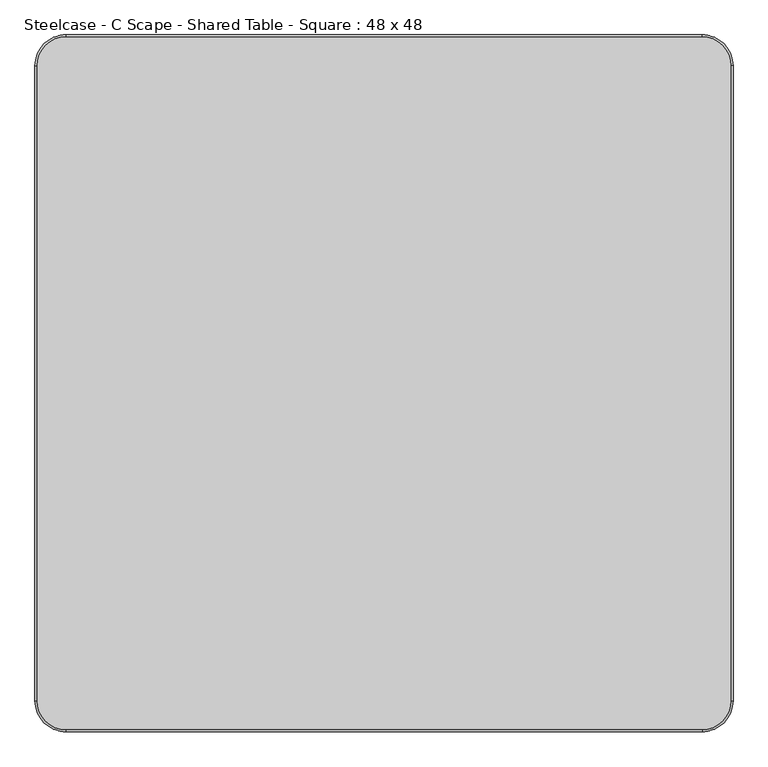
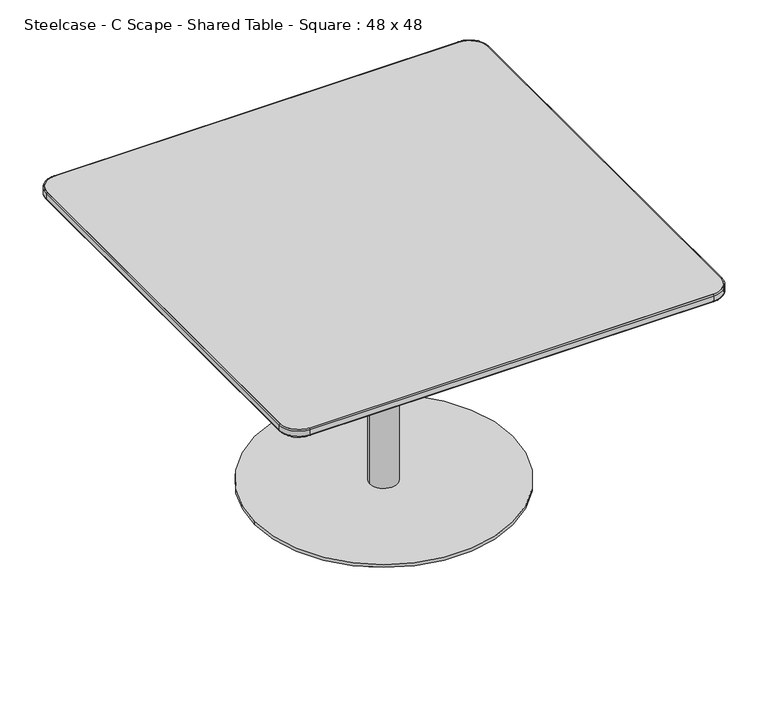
"""IFC4 building model written with IfcOpenShell, lengths in millimetres: furniture geometry, Steelcase - C Scape - Shared Table - Square : 48 x 48."""

import ifcopenshell
import ifcopenshell.guid

model = None  # the IFC model being written
_history = None  # IfcOwnerHistory: only IFC2X3 demands one
_inside = {}  # id of a spatial element -> (the spatial element, [elements in it])
_under = {}  # id of a project, library or spatial element -> (it, [spatial elements below it])
_declared = {}  # id of a project -> (the project, [libraries it declares])
_typed = {}  # id of a type object -> (the type object, [elements of that type])
_made_of = {}  # id of a material, layer set ... -> (it, [elements and type objects made of it])


def new_model(schema):
    """Start an empty IFC model of exactly this schema.

    Asked for "IFC4X3", IfcOpenShell would pick the latest addendum, in which some entities
    have other attributes; the version numbers below select the first issue.
    IFC2X3 requires an IfcOwnerHistory on every rooted entity: one is made here for all.
    """
    global model, _history
    if schema == "IFC4X3":
        model = ifcopenshell.file(schema_version=(4, 3, 0, 0))
    else:
        model = ifcopenshell.file(schema=schema)
    _inside.clear()
    _under.clear()
    _declared.clear()
    _typed.clear()
    _made_of.clear()
    _history = None
    if model.schema == "IFC2X3":
        org = make("IfcOrganization", Name="unknown")
        user = make(
            "IfcPersonAndOrganization",
            ThePerson=make("IfcPerson", FamilyName="unknown"),
            TheOrganization=org,
        )
        app = make(
            "IfcApplication",
            ApplicationDeveloper=org,
            Version="unknown",
            ApplicationFullName="unknown",
            ApplicationIdentifier="unknown",
        )
        _history = make(
            "IfcOwnerHistory",
            OwningUser=user,
            OwningApplication=app,
            ChangeAction="ADDED",
            CreationDate=0,
        )
    return model


def make(cls, **values):
    """One entity of the class cls with the attributes given. An attribute that is None is left unset."""
    return model.create_entity(
        cls, **{name: value for name, value in values.items() if value is not None}
    )


def rooted(cls, **values):
    """An entity with a GlobalId (a new one), such as an element, a storey or a relation."""
    return make(cls, GlobalId=ifcopenshell.guid.new(), OwnerHistory=_history, **values)


def si_unit(unit_type, name, prefix=None):
    """IfcSIUnit, for example si_unit("LENGTHUNIT", "METRE", prefix="MILLI")."""
    return make("IfcSIUnit", UnitType=unit_type, Prefix=prefix, Name=name)


def assignment(units):
    """IfcUnitAssignment: the units of a project."""
    return None if units is None else make("IfcUnitAssignment", Units=units)


def point(xyz):
    """IfcCartesianPoint."""
    return None if xyz is None else make("IfcCartesianPoint", Coordinates=xyz)


def direction(xyz):
    """IfcDirection."""
    return None if xyz is None else make("IfcDirection", DirectionRatios=xyz)


def frame(location, z_axis=None, x_axis=None):
    """IfcAxis2Placement3D, a coordinate frame: its origin and axes. An axis left out is left unset."""
    return make(
        "IfcAxis2Placement3D",
        Location=point(location),
        Axis=direction(z_axis),
        RefDirection=direction(x_axis),
    )


def frame_2d(location, x_axis=None):
    """IfcAxis2Placement2D, a coordinate frame in the plane: its origin and x axis."""
    return make(
        "IfcAxis2Placement2D", Location=point(location), RefDirection=direction(x_axis)
    )


def origin():
    """The frame at (0, 0, 0) with its axes left unset."""
    return frame((0.0, 0.0, 0.0))


def origin_with_axes():
    """The frame at (0, 0, 0) with the z axis (0, 0, 1) and the x axis (1, 0, 0) written out."""
    return frame((0.0, 0.0, 0.0), z_axis=(0.0, 0.0, 1.0), x_axis=(1.0, 0.0, 0.0))


def place(relative_to, where):
    """IfcLocalPlacement: puts the frame where relative to a parent placement (None: the world)."""
    return make(
        "IfcLocalPlacement", PlacementRelTo=relative_to, RelativePlacement=where
    )


def context(
    kind, dimensions, precision=None, world=None, true_north=None, identifier=None
):
    """IfcGeometricRepresentationContext, for example the 3D "Model" context."""
    return make(
        "IfcGeometricRepresentationContext",
        ContextIdentifier=identifier,
        ContextType=kind,
        CoordinateSpaceDimension=dimensions,
        Precision=precision,
        WorldCoordinateSystem=world,
        TrueNorth=true_north,
    )


def project(units=None, contexts=None):
    """IfcProject with its units and contexts."""
    return rooted(
        "IfcProject",
        Name="project",
        RepresentationContexts=contexts,
        UnitsInContext=assignment(units),
    )


def spatial(cls, under=None, at=None, **own):
    """A site, building, storey or space (cls), placed at a placement, below another one or the project."""
    s = rooted(cls, ObjectPlacement=at, **own)
    if under is not None:
        _under.setdefault(under.id(), (under, []))[1].append(s)
    return s


def polyline(points):
    """IfcPolyline through the points."""
    return make("IfcPolyline", Points=[point(p) for p in points])


def circle_curve(where, radius):
    """IfcCircle in the frame where."""
    return make("IfcCircle", Position=where, Radius=radius)


def ellipse_curve(where, semi_axis1, semi_axis2):
    """IfcEllipse in the frame where."""
    return make(
        "IfcEllipse", Position=where, SemiAxis1=semi_axis1, SemiAxis2=semi_axis2
    )


def trimmed(basis, trim1, trim2, sense, master):
    """IfcTrimmedCurve: the piece of a basis curve between two trims."""
    return make(
        "IfcTrimmedCurve",
        BasisCurve=basis,
        Trim1=trim1,
        Trim2=trim2,
        SenseAgreement=sense,
        MasterRepresentation=master,
    )


def segment(curve, same_sense, transition):
    """IfcCompositeCurveSegment."""
    return make(
        "IfcCompositeCurveSegment",
        Transition=transition,
        SameSense=same_sense,
        ParentCurve=curve,
    )


def composite_curve(segments, self_intersect=None):
    """IfcCompositeCurve: segments joined end to end."""
    return make("IfcCompositeCurve", Segments=segments, SelfIntersect=self_intersect)


def outline(outer, holes=None, kind="AREA"):
    """IfcArbitraryClosedProfileDef: a profile drawn as a closed curve; with holes, ...WithVoids."""
    if holes is None:
        return make("IfcArbitraryClosedProfileDef", ProfileType=kind, OuterCurve=outer)
    return make(
        "IfcArbitraryProfileDefWithVoids",
        ProfileType=kind,
        OuterCurve=outer,
        InnerCurves=holes,
    )


def extrude(swept, where, along, depth):
    """IfcExtrudedAreaSolid: the profile swept, set in the frame where, extruded along a direction by depth."""
    return make(
        "IfcExtrudedAreaSolid",
        SweptArea=swept,
        Position=where,
        ExtrudedDirection=direction(along),
        Depth=depth,
    )


def shape(context_of_items, identifier, shape_type, items):
    """IfcShapeRepresentation: the items that make up one representation, for example the "Body"."""
    return make(
        "IfcShapeRepresentation",
        ContextOfItems=context_of_items,
        RepresentationIdentifier=identifier,
        RepresentationType=shape_type,
        Items=items,
    )


def source(mapping_origin, context_of_items, identifier, shape_type, items):
    """IfcRepresentationMap: a shape defined once, which mapped items show again and again."""
    return make(
        "IfcRepresentationMap",
        MappingOrigin=mapping_origin,
        MappedRepresentation=shape(context_of_items, identifier, shape_type, items),
    )


def transform(
    local_origin,
    x_axis=None,
    y_axis=None,
    z_axis=None,
    scale=None,
    scale2=None,
    scale3=None,
    uniform=True,
):
    """IfcCartesianTransformationOperator3D, or its non-uniform kind. x_axis, y_axis, z_axis: its Axis1, 2, 3."""
    if uniform:
        return make(
            "IfcCartesianTransformationOperator3D",
            Axis1=direction(x_axis),
            Axis2=direction(y_axis),
            LocalOrigin=point(local_origin),
            Scale=scale,
            Axis3=direction(z_axis),
        )
    return make(
        "IfcCartesianTransformationOperator3DnonUniform",
        Axis1=direction(x_axis),
        Axis2=direction(y_axis),
        LocalOrigin=point(local_origin),
        Scale=scale,
        Axis3=direction(z_axis),
        Scale2=scale2,
        Scale3=scale3,
    )


def mapped(mapping_source, mapping_target):
    """IfcMappedItem: shows the shape of a source again, moved by a transform."""
    return make(
        "IfcMappedItem", MappingSource=mapping_source, MappingTarget=mapping_target
    )


def made_of(thing, what):
    """Note that an element or type object is made of a material, layer set ...; save() writes the relation."""
    if what is not None:
        _made_of.setdefault(what.id(), (what, []))[1].append(thing)
    return thing


def element(
    cls,
    number,
    at=None,
    inside=None,
    cuts=None,
    type_object=None,
    material=None,
    context=None,
    identifier="Body",
    shape_type=None,
    held_by="IfcProductDefinitionShape",
    body=None,
    shapes=None,
    **own,
):
    """One element of the class cls, such as IfcWall. Its Tag is "e" and its number.

    at: its placement. inside: the storey or other place that contains it. cuts: it is an
    opening in that element (IfcRelVoidsElement). A single representation is given by context,
    identifier, shape_type and body (its items); several are given by shapes. held_by: the class
    of the entity that holds the representations. save() writes the other relations.
    """
    e = rooted(cls, Tag="e%d" % number, ObjectPlacement=at, **own)
    if body is not None:
        shapes = [shape(context, identifier, shape_type, body)]
    if shapes is not None:
        e.Representation = make(held_by, Representations=shapes)
    if inside is not None:
        _inside.setdefault(inside.id(), (inside, []))[1].append(e)
    if cuts is not None:
        rooted(
            "IfcRelVoidsElement", RelatingBuildingElement=cuts, RelatedOpeningElement=e
        )
    if type_object is not None:
        _typed.setdefault(type_object.id(), (type_object, []))[1].append(e)
    return made_of(e, material)


def aggregate(whole, parts):
    """IfcRelAggregates: a whole, such as a stair, and the parts it consists of."""
    return rooted("IfcRelAggregates", RelatingObject=whole, RelatedObjects=parts)


def save(model, path):
    """Write the relations noted so far, then the file.

    IfcRelAggregates (storeys below a building ...), IfcRelContainedInSpatialStructure (elements
    in a storey), IfcRelDefinesByType, IfcRelAssociatesMaterial and IfcRelDeclares: one each for
    every whole, place, type object, material and project.
    """
    for whole, parts in _under.values():
        aggregate(whole, parts)
    for where, things in _inside.values():
        rooted(
            "IfcRelContainedInSpatialStructure",
            RelatedElements=things,
            RelatingStructure=where,
        )
    for kind, things in _typed.values():
        rooted("IfcRelDefinesByType", RelatedObjects=things, RelatingType=kind)
    for what, things in _made_of.values():
        rooted("IfcRelAssociatesMaterial", RelatedObjects=things, RelatingMaterial=what)
    for by, libraries in _declared.values():
        rooted("IfcRelDeclares", RelatingContext=by, RelatedDefinitions=libraries)
    model.write(path)


def plane_surface(at):
    """IfcPlane: the flat surface through the origin of the frame at, square to its z axis."""
    return make("IfcPlane", Position=at)


def cylinder_surface(at, radius):
    """IfcCylindricalSurface: all points at the distance radius from the z axis of the frame at."""
    return make("IfcCylindricalSurface", Position=at, Radius=radius)


def revolved_surface(curve, axis_point, axis_direction):
    """IfcSurfaceOfRevolution: the curve turned about the line through axis_point along axis_direction."""
    return make(
        "IfcSurfaceOfRevolution",
        SweptCurve=make("IfcArbitraryOpenProfileDef", ProfileType="CURVE", Curve=curve),
        AxisPosition=make("IfcAxis1Placement", Location=point(axis_point), Axis=direction(axis_direction)),
    )


def spline_surface(u_degree, v_degree, points, u_multiplicities, v_multiplicities, u_knots, v_knots, weights=None):
    """IfcBSplineSurfaceWithKnots; with weights, IfcRationalBSplineSurfaceWithKnots. points: one row for each step in u."""
    own = dict(
        UDegree=u_degree,
        VDegree=v_degree,
        ControlPointsList=[[point(p) for p in row] for row in points],
        SurfaceForm="UNSPECIFIED",
        UClosed=False,
        VClosed=False,
        SelfIntersect=False,
        UMultiplicities=u_multiplicities,
        VMultiplicities=v_multiplicities,
        UKnots=u_knots,
        VKnots=v_knots,
        KnotSpec="UNSPECIFIED",
    )
    if weights is None:
        return make("IfcBSplineSurfaceWithKnots", **own)
    return make("IfcRationalBSplineSurfaceWithKnots", WeightsData=weights, **own)


def advanced_brep(points, edges, surfaces, faces):
    """IfcAdvancedBrep: a solid bounded by faces that lie on surfaces and meet in shared edges.

    An edge is (start, end): straight between two places in points (the first is 0);
    or (start, end, curve); or (start, end, curve, False) where it runs against its curve.
    A face is (place in surfaces, loops), or (place, loops, False) where it looks against
    its surface's normal. A loop lists edges by number (the first is 1), with a minus sign
    where the edge is run from its end to its start. The first loop is the outer one.
    """
    corners = [point(p) for p in points]
    vertices = [make("IfcVertexPoint", VertexGeometry=c) for c in corners]
    made = []
    for start, end, *more in edges:
        made.append(
            make(
                "IfcEdgeCurve",
                EdgeStart=vertices[start],
                EdgeEnd=vertices[end],
                EdgeGeometry=more[0] if more else make("IfcPolyline", Points=[corners[start], corners[end]]),
                SameSense=more[1] if len(more) > 1 else True,
            )
        )
    hull = []
    for where, loops, *sense in faces:
        bounds = []
        for j, loop in enumerate(loops):
            ring = [make("IfcOrientedEdge", EdgeElement=made[abs(k) - 1], Orientation=k > 0) for k in loop]
            bounds.append(
                make(
                    "IfcFaceOuterBound" if j == 0 else "IfcFaceBound",
                    Bound=make("IfcEdgeLoop", EdgeList=ring),
                    Orientation=True,
                )
            )
        hull.append(make("IfcAdvancedFace", Bounds=bounds, FaceSurface=surfaces[where], SameSense=sense[0] if sense else True))
    return make("IfcAdvancedBrep", Outer=make("IfcClosedShell", CfsFaces=hull))


def steelcase_c_scape_shared_table_square_48_x_48_f934af08(model_context):
    return source(origin(), model_context, "Body", "SolidModel", [
        extrude(outline(composite_curve([segment(trimmed(circle_curve(frame_2d((614.3169393, -282.5887078)), 19.05), [point((595.2669393, -282.5887078))], [point((633.3669393, -282.5887078))], False, "CARTESIAN"), True, "CONTINUOUS"), segment(trimmed(circle_curve(frame_2d((614.3169393, -282.5887078)), 19.05), [point((633.3669393, -282.5887078))], [point((595.2669393, -282.5887078))], False, "CARTESIAN"), True, "CONTINUOUS")], self_intersect=False)), origin_with_axes(), (0.0, 0.0, 1.0), 4.7752),
        extrude(outline(composite_curve([segment(trimmed(circle_curve(frame_2d((925.7274141, -508.1223889)), 19.05), [point((906.6774141, -508.1223889))], [point((944.7774141, -508.1223889))], False, "CARTESIAN"), True, "CONTINUOUS"), segment(trimmed(circle_curve(frame_2d((925.7274141, -508.1223889)), 19.05), [point((944.7774141, -508.1223889))], [point((906.6774141, -508.1223889))], False, "CARTESIAN"), True, "CONTINUOUS")], self_intersect=False)), origin_with_axes(), (0.0, 0.0, 1.0), 4.7752),
        extrude(outline(composite_curve([segment(trimmed(circle_curve(frame_2d((293.4725859, -508.1223889)), 19.05), [point((274.4225859, -508.1223889))], [point((312.5225859, -508.1223889))], False, "CARTESIAN"), True, "CONTINUOUS"), segment(trimmed(circle_curve(frame_2d((293.4725859, -508.1223889)), 19.05), [point((312.5225859, -508.1223889))], [point((274.4225859, -508.1223889))], False, "CARTESIAN"), True, "CONTINUOUS")], self_intersect=False)), origin_with_axes(), (0.0, 0.0, 1.0), 4.7752),
        extrude(outline(composite_curve([segment(trimmed(circle_curve(frame_2d((419.5814105, -877.5440092)), 19.05), [point((400.5314105, -877.5440092))], [point((438.6314105, -877.5440092))], False, "CARTESIAN"), True, "CONTINUOUS"), segment(trimmed(circle_curve(frame_2d((419.5814105, -877.5440092)), 19.05), [point((438.6314105, -877.5440092))], [point((400.5314105, -877.5440092))], False, "CARTESIAN"), True, "CONTINUOUS")], self_intersect=False)), origin_with_axes(), (0.0, 0.0, 1.0), 4.7752),
        extrude(outline(composite_curve([segment(trimmed(circle_curve(frame_2d((799.6185895, -877.5440092)), 19.05), [point((780.5685895, -877.5440092))], [point((818.6685895, -877.5440092))], False, "CARTESIAN"), True, "CONTINUOUS"), segment(trimmed(circle_curve(frame_2d((799.6185895, -877.5440092)), 19.05), [point((818.6685895, -877.5440092))], [point((780.5685895, -877.5440092))], False, "CARTESIAN"), True, "CONTINUOUS")], self_intersect=False)), origin_with_axes(), (0.0, 0.0, 1.0), 4.7752),
        extrude(outline(polyline([(519.4461817, -703.2451349), (519.4461817, -525.4450865), (697.2460848, -525.4450865), (697.2460848, -703.2451349), (519.4461817, -703.2451349)])), frame((0.0, 0.0, 686.0031853), z_axis=(0.0, 0.0, 1.0), x_axis=(1.0, 0.0, 0.0)), (0.0, 0.0, 1.0), 9.4488147),
        extrude(outline(composite_curve([segment(trimmed(circle_curve(frame_2d((608.80625, -609.6)), 38.1), [point((570.70625, -609.6))], [point((646.90625, -609.6))], False, "CARTESIAN"), True, "CONTINUOUS"), segment(trimmed(circle_curve(frame_2d((608.80625, -609.6)), 38.1), [point((646.90625, -609.6))], [point((570.70625, -609.6))], False, "CARTESIAN"), True, "CONTINUOUS")], self_intersect=False)), frame((0.0, 0.0, 12.7), z_axis=(0.0, 0.0, 1.0), x_axis=(1.0, 0.0, 0.0)), (0.0, 0.0, 1.0), 673.3031853),
        extrude(outline(composite_curve([segment(trimmed(circle_curve(frame_2d((609.6, -609.6)), 355.6), [point((254.0, -609.6))], [point((965.2, -609.6))], False, "CARTESIAN"), True, "CONTINUOUS"), segment(trimmed(circle_curve(frame_2d((609.6, -609.6)), 355.6), [point((965.2, -609.6))], [point((254.0, -609.6))], False, "CARTESIAN"), True, "CONTINUOUS")], self_intersect=False)), frame((0.0, 0.0, 4.7752), z_axis=(0.0, 0.0, 1.0), x_axis=(1.0, 0.0, 0.0)), (0.0, 0.0, 1.0), 7.9248),
        advanced_brep(
        [(-0.1222812, -55.3389673, 705.9399771), (53.6749195, -1.5417665, 705.9399771), (53.6749195, -4.5389673, 703.453), (2.8749195, -55.3389673, 703.453), (-0.1222812, -55.3389673, 720.9027992), (53.6749195, -1.5417665, 720.9027992), (2.8749195, -55.3389673, 723.9), (53.6749195, -4.5389673, 723.9), (2.8749195, -1165.4027992, 703.453), (-0.1222812, -1165.4027992, 705.9399771), (-0.1222812, -1165.4027992, 720.9027992), (2.8749195, -1165.4027992, 723.9), (1219.3222812, -1165.4027992, 705.9399771), (1216.3250805, -1165.4027992, 703.453), (1216.3250805, -55.3389673, 703.453), (1219.3222812, -55.3389673, 705.9399771), (1219.3222812, -1165.4027992, 720.9027992), (1219.3222812, -55.3389673, 720.9027992), (1216.3250805, -1165.4027992, 723.9), (1216.3250805, -55.3389673, 723.9), (1165.5250805, -1.5417665, 705.9399771), (1165.5250805, -4.5389673, 703.453), (1165.5250805, -1.5417665, 720.9027992), (1165.5250805, -4.5389673, 723.9), (53.6749195, -1219.2, 705.9399771), (53.6749195, -1216.2027992, 703.453), (53.6749195, -1219.2, 720.9027992), (53.6749195, -1216.2027992, 723.9), (1165.5250805, -1216.2027992, 703.453), (1165.5250805, -1219.2, 705.9399771), (1165.5250805, -1219.2, 720.9027992), (1165.5250805, -1216.2027992, 723.9)],
        [
            (0, 1, circle_curve(frame((53.6749195, -55.3389673, 705.9399771), z_axis=(0.0, 0.0, -1.0), x_axis=(0.0, 1.0, 0.0)), 53.7972008)),
            (1, 2, circle_curve(frame((53.6749195, -4.0721722, 705.9399771), z_axis=(-1.0, 0.0, 0.0), x_axis=(0.0, -1.0, 0.0)), 2.5304056)),
            (2, 3, circle_curve(frame((53.6749195, -55.3389673, 703.453), z_axis=(0.0, 0.0, 1.0), x_axis=(0.0, 1.0, 0.0)), 50.8)),
            (3, 0, circle_curve(frame((2.4081244, -55.3389673, 705.9399771), z_axis=(0.0, 1.0, 0.0), x_axis=(1.0, 0.0, 0.0)), 2.5304056)),
            (4, 5, circle_curve(frame((53.6749195, -55.3389673, 720.9027992), z_axis=(0.0, 0.0, -1.0), x_axis=(0.0, 1.0, 0.0)), 53.7972008)),
            (5, 1),
            (0, 4),
            (6, 7, circle_curve(frame((53.6749195, -55.3389673, 723.9), z_axis=(0.0, 0.0, -1.0), x_axis=(0.0, 1.0, 0.0)), 50.8)),
            (7, 5, circle_curve(frame((53.6749195, -4.5389673, 720.9027992), z_axis=(-1.0, 0.0, 0.0), x_axis=(0.0, -1.0, 0.0)), 2.9972008)),
            (4, 6, circle_curve(frame((2.8749195, -55.3389673, 720.9027992), z_axis=(0.0, 1.0, 0.0), x_axis=(1.0, 0.0, 0.0)), 2.9972008)),
            (2, 7),
            (6, 3),
            (3, 8),
            (8, 9, circle_curve(frame((2.4081244, -1165.4027992, 705.9399771), z_axis=(0.0, 1.0, 0.0), x_axis=(1.0, 0.0, 0.0)), 2.5304056)),
            (9, 0),
            (9, 10),
            (10, 4),
            (10, 11, circle_curve(frame((2.8749195, -1165.4027992, 720.9027992), z_axis=(0.0, 1.0, 0.0), x_axis=(1.0, 0.0, 0.0)), 2.9972008)),
            (11, 6),
            (11, 8),
            (12, 13, circle_curve(frame((1216.7918756, -1165.4027992, 705.9399771), z_axis=(0.0, 1.0, 0.0), x_axis=(-1.0, 0.0, 0.0)), 2.5304056)),
            (13, 14),
            (14, 15, circle_curve(frame((1216.7918756, -55.3389673, 705.9399771), z_axis=(0.0, -1.0, 0.0), x_axis=(-1.0, 0.0, 0.0)), 2.5304056)),
            (15, 12),
            (16, 12),
            (15, 17),
            (17, 16),
            (18, 16, circle_curve(frame((1216.3250805, -1165.4027992, 720.9027992), z_axis=(0.0, 1.0, 0.0), x_axis=(-1.0, 0.0, 0.0)), 2.9972008)),
            (17, 19, circle_curve(frame((1216.3250805, -55.3389673, 720.9027992), z_axis=(0.0, -1.0, 0.0), x_axis=(-1.0, 0.0, 0.0)), 2.9972008)),
            (19, 18),
            (13, 18),
            (19, 14),
            (20, 15, circle_curve(frame((1165.5250805, -55.3389673, 705.9399771), z_axis=(0.0, 0.0, -1.0), x_axis=(1.0, 0.0, 0.0)), 53.7972008)),
            (14, 21, circle_curve(frame((1165.5250805, -55.3389673, 703.453), z_axis=(0.0, 0.0, 1.0), x_axis=(1.0, 0.0, 0.0)), 50.8)),
            (21, 20, circle_curve(frame((1165.5250805, -4.0721722, 705.9399771), z_axis=(1.0, 0.0, 0.0), x_axis=(0.0, -1.0, 0.0)), 2.5304056)),
            (22, 17, circle_curve(frame((1165.5250805, -55.3389673, 720.9027992), z_axis=(0.0, 0.0, -1.0), x_axis=(1.0, 0.0, 0.0)), 53.7972008)),
            (20, 22),
            (23, 19, circle_curve(frame((1165.5250805, -55.3389673, 723.9), z_axis=(0.0, 0.0, -1.0), x_axis=(1.0, 0.0, 0.0)), 50.8)),
            (22, 23, circle_curve(frame((1165.5250805, -4.5389673, 720.9027992), z_axis=(1.0, 0.0, 0.0), x_axis=(0.0, -1.0, 0.0)), 2.9972008)),
            (23, 21),
            (21, 2),
            (1, 20),
            (5, 22),
            (7, 23),
            (24, 9, circle_curve(frame((53.6749195, -1165.4027992, 705.9399771), z_axis=(0.0, 0.0, -1.0), x_axis=(-1.0, 0.0, 0.0)), 53.7972008)),
            (8, 25, circle_curve(frame((53.6749195, -1165.4027992, 703.453), z_axis=(0.0, 0.0, 1.0), x_axis=(-1.0, 0.0, 0.0)), 50.8)),
            (25, 24, circle_curve(frame((53.6749195, -1216.6695944, 705.9399771), z_axis=(-1.0, 0.0, 0.0), x_axis=(0.0, 1.0, 0.0)), 2.5304056)),
            (26, 10, circle_curve(frame((53.6749195, -1165.4027992, 720.9027992), z_axis=(0.0, 0.0, -1.0), x_axis=(-1.0, 0.0, 0.0)), 53.7972008)),
            (24, 26),
            (27, 11, circle_curve(frame((53.6749195, -1165.4027992, 723.9), z_axis=(0.0, 0.0, -1.0), x_axis=(-1.0, 0.0, 0.0)), 50.8)),
            (26, 27, circle_curve(frame((53.6749195, -1216.2027992, 720.9027992), z_axis=(-1.0, 0.0, 0.0), x_axis=(0.0, 1.0, 0.0)), 2.9972008)),
            (27, 25),
            (25, 28),
            (28, 29, circle_curve(frame((1165.5250805, -1216.6695944, 705.9399771), z_axis=(-1.0, 0.0, 0.0), x_axis=(0.0, 1.0, 0.0)), 2.5304056)),
            (29, 24),
            (29, 30),
            (30, 26),
            (30, 31, circle_curve(frame((1165.5250805, -1216.2027992, 720.9027992), z_axis=(-1.0, 0.0, 0.0), x_axis=(0.0, 1.0, 0.0)), 2.9972008)),
            (31, 27),
            (31, 28),
            (12, 29, circle_curve(frame((1165.5250805, -1165.4027992, 705.9399771), z_axis=(0.0, 0.0, -1.0), x_axis=(0.0, -1.0, 0.0)), 53.7972008)),
            (28, 13, circle_curve(frame((1165.5250805, -1165.4027992, 703.453), z_axis=(0.0, 0.0, 1.0), x_axis=(0.0, -1.0, 0.0)), 50.8)),
            (16, 30, circle_curve(frame((1165.5250805, -1165.4027992, 720.9027992), z_axis=(0.0, 0.0, -1.0), x_axis=(0.0, -1.0, 0.0)), 53.7972008)),
            (18, 31, circle_curve(frame((1165.5250805, -1165.4027992, 723.9), z_axis=(0.0, 0.0, -1.0), x_axis=(0.0, -1.0, 0.0)), 50.8)),
        ],
        [
            revolved_surface(trimmed(ellipse_curve(frame((53.6749195, -4.0721722, 705.9399771), z_axis=(1.0, 0.0, 0.0), x_axis=(0.0, -1.0, 0.0)), 2.5304056, 2.5304056), [point((53.6749195, -4.5389673, 703.453))], [point((53.6749195, -1.5417665, 705.9399771))], True, "CARTESIAN"), (53.6749195, -55.3389673, 703.453), (0.0, 0.0, 1.0)),
            cylinder_surface(frame((53.6749195, -55.3389673, 703.453), z_axis=(0.0, 0.0, 1.0), x_axis=(0.0, 1.0, 0.0)), 53.7972008),
            revolved_surface(trimmed(ellipse_curve(frame((53.6749195, -4.5389673, 720.9027992), z_axis=(1.0, 0.0, 0.0), x_axis=(0.0, -1.0, 0.0)), 2.9972008, 2.9972008), [point((53.6749195, -1.5417665, 720.9027992))], [point((53.6749195, -4.5389673, 723.9))], True, "CARTESIAN"), (53.6749195, -55.3389673, 703.453), (0.0, 0.0, 1.0)),
            revolved_surface(polyline([(53.6749195, -4.538967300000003, 723.9), (53.6749195, -4.538967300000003, 703.453)]), (53.6749195, -55.3389673, 703.453), (0.0, 0.0, 1.0)),
            cylinder_surface(frame((2.4081244, -55.3389673, 705.9399771), z_axis=(0.0, 1.0, 0.0), x_axis=(1.0, 0.0, 0.0)), 2.5304056),
            plane_surface(frame((-0.1222812, -55.3389673, 705.9399771), z_axis=(-1.0, 0.0, 0.0), x_axis=(0.0, -1.0, 0.0))),
            cylinder_surface(frame((2.8749195, -55.3389673, 720.9027992), z_axis=(0.0, 1.0, 0.0), x_axis=(1.0, 0.0, 0.0)), 2.9972008),
            plane_surface(frame((2.8749195, -55.3389673, 723.9), z_axis=(1.0, 0.0, 0.0), x_axis=(0.0, -1.0, 0.0))),
            cylinder_surface(frame((1216.7918756, -1165.4027992, 705.9399771), z_axis=(0.0, -1.0, 0.0), x_axis=(-1.0, 0.0, 0.0)), 2.5304056),
            plane_surface(frame((1219.3222812, -1165.4027992, 705.9399771), z_axis=(1.0, 0.0, 0.0), x_axis=(0.0, 1.0, 0.0))),
            cylinder_surface(frame((1216.3250805, -1165.4027992, 720.9027992), z_axis=(0.0, -1.0, 0.0), x_axis=(-1.0, 0.0, 0.0)), 2.9972008),
            plane_surface(frame((1216.3250805, -1165.4027992, 723.9), z_axis=(-1.0, 0.0, 0.0), x_axis=(0.0, 1.0, 0.0))),
            revolved_surface(trimmed(ellipse_curve(frame((1216.7918756, -55.3389673, 705.9399771), z_axis=(0.0, -1.0, 0.0), x_axis=(-1.0, 0.0, 0.0)), 2.5304056, 2.5304056), [point((1216.3250805, -55.3389673, 703.453))], [point((1219.3222812, -55.3389673, 705.9399771))], True, "CARTESIAN"), (1165.5250805, -55.3389673, 703.453), (0.0, 0.0, 1.0)),
            cylinder_surface(frame((1165.5250805, -55.3389673, 703.453), z_axis=(0.0, 0.0, 1.0), x_axis=(1.0, 0.0, 0.0)), 53.7972008),
            revolved_surface(trimmed(ellipse_curve(frame((1216.3250805, -55.3389673, 720.9027992), z_axis=(0.0, -1.0, 0.0), x_axis=(-1.0, 0.0, 0.0)), 2.9972008, 2.9972008), [point((1219.3222812, -55.3389673, 720.9027992))], [point((1216.3250805, -55.3389673, 723.9))], True, "CARTESIAN"), (1165.5250805, -55.3389673, 703.453), (0.0, 0.0, 1.0)),
            revolved_surface(polyline([(1216.3250805, -55.3389673, 723.9), (1216.3250805, -55.3389673, 703.453)]), (1165.5250805, -55.3389673, 703.453), (0.0, 0.0, 1.0)),
            cylinder_surface(frame((1165.5250805, -4.0721722, 705.9399771), z_axis=(1.0, 0.0, 0.0), x_axis=(0.0, -1.0, 0.0)), 2.5304056),
            plane_surface(frame((1165.5250805, -1.5417665, 705.9399771), z_axis=(0.0, 1.0, 0.0), x_axis=(-1.0, 0.0, 0.0))),
            cylinder_surface(frame((1165.5250805, -4.5389673, 720.9027992), z_axis=(1.0, 0.0, 0.0), x_axis=(0.0, -1.0, 0.0)), 2.9972008),
            plane_surface(frame((1165.5250805, -4.5389673, 723.9), z_axis=(0.0, -1.0, 0.0), x_axis=(-1.0, 0.0, 0.0))),
            revolved_surface(trimmed(ellipse_curve(frame((2.4081244, -1165.4027992, 705.9399771), z_axis=(0.0, 1.0, 0.0), x_axis=(1.0, 0.0, 0.0)), 2.5304056, 2.5304056), [point((2.8749195, -1165.4027992, 703.453))], [point((-0.1222812, -1165.4027992, 705.9399771))], True, "CARTESIAN"), (53.6749195, -1165.4027992, 703.453), (0.0, 0.0, 1.0)),
            cylinder_surface(frame((53.6749195, -1165.4027992, 703.453), z_axis=(0.0, 0.0, 1.0), x_axis=(-1.0, 0.0, 0.0)), 53.7972008),
            revolved_surface(trimmed(ellipse_curve(frame((2.8749195, -1165.4027992, 720.9027992), z_axis=(0.0, 1.0, 0.0), x_axis=(1.0, 0.0, 0.0)), 2.9972008, 2.9972008), [point((-0.1222812, -1165.4027992, 720.9027992))], [point((2.8749195, -1165.4027992, 723.9))], True, "CARTESIAN"), (53.6749195, -1165.4027992, 703.453), (0.0, 0.0, 1.0)),
            revolved_surface(polyline([(2.8749195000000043, -1165.4027992, 723.9), (2.8749195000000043, -1165.4027992, 703.453)]), (53.6749195, -1165.4027992, 703.453), (0.0, 0.0, 1.0)),
            cylinder_surface(frame((53.6749195, -1216.6695944, 705.9399771), z_axis=(-1.0, 0.0, 0.0), x_axis=(0.0, 1.0, 0.0)), 2.5304056),
            plane_surface(frame((53.6749195, -1219.2, 705.9399771), z_axis=(0.0, -1.0, 0.0), x_axis=(1.0, 0.0, 0.0))),
            cylinder_surface(frame((53.6749195, -1216.2027992, 720.9027992), z_axis=(-1.0, 0.0, 0.0), x_axis=(0.0, 1.0, 0.0)), 2.9972008),
            plane_surface(frame((53.6749195, -1216.2027992, 723.9), z_axis=(0.0, 1.0, 0.0), x_axis=(1.0, 0.0, 0.0))),
            revolved_surface(trimmed(ellipse_curve(frame((1165.5250805, -1216.6695944, 705.9399771), z_axis=(-1.0, 0.0, 0.0), x_axis=(0.0, 1.0, 0.0)), 2.5304056, 2.5304056), [point((1165.5250805, -1216.2027992, 703.453))], [point((1165.5250805, -1219.2, 705.9399771))], True, "CARTESIAN"), (1165.5250805, -1165.4027992, 703.453), (0.0, 0.0, 1.0)),
            cylinder_surface(frame((1165.5250805, -1165.4027992, 703.453), z_axis=(0.0, 0.0, 1.0), x_axis=(0.0, -1.0, 0.0)), 53.7972008),
            revolved_surface(trimmed(ellipse_curve(frame((1165.5250805, -1216.2027992, 720.9027992), z_axis=(-1.0, 0.0, 0.0), x_axis=(0.0, 1.0, 0.0)), 2.9972008, 2.9972008), [point((1165.5250805, -1219.2, 720.9027992))], [point((1165.5250805, -1216.2027992, 723.9))], True, "CARTESIAN"), (1165.5250805, -1165.4027992, 703.453), (0.0, 0.0, 1.0)),
            revolved_surface(polyline([(1165.5250805, -1216.2027991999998, 723.9), (1165.5250805, -1216.2027991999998, 703.453)]), (1165.5250805, -1165.4027992, 703.453), (0.0, 0.0, 1.0)),
        ],
        [
            (0, [[1, 2, 3, 4]]),
            (1, [[5, 6, -1, 7]]),
            (2, [[8, 9, -5, 10]]),
            (3, [[-3, 11, -8, 12]]),
            (4, [[-4, 13, 14, 15]]),
            (5, [[-7, -15, 16, 17]]),
            (6, [[-10, -17, 18, 19]]),
            (7, [[-12, -19, 20, -13]]),
            (8, [[21, 22, 23, 24]]),
            (9, [[25, -24, 26, 27]]),
            (10, [[28, -27, 29, 30]]),
            (11, [[31, -30, 32, -22]]),
            (12, [[33, -23, 34, 35]]),
            (13, [[36, -26, -33, 37]]),
            (14, [[38, -29, -36, 39]]),
            (15, [[-34, -32, -38, 40]]),
            (16, [[-35, 41, -2, 42]]),
            (17, [[-37, -42, -6, 43]]),
            (18, [[-39, -43, -9, 44]]),
            (19, [[-40, -44, -11, -41]]),
            (20, [[45, -14, 46, 47]]),
            (21, [[48, -16, -45, 49]]),
            (22, [[50, -18, -48, 51]]),
            (23, [[-46, -20, -50, 52]]),
            (24, [[-47, 53, 54, 55]]),
            (25, [[-49, -55, 56, 57]]),
            (26, [[-51, -57, 58, 59]]),
            (27, [[-52, -59, 60, -53]]),
            (28, [[61, -54, 62, -21]]),
            (29, [[63, -56, -61, -25]]),
            (30, [[64, -58, -63, -28]]),
            (31, [[-62, -60, -64, -31]]),
        ],
    ),
        extrude(outline(composite_curve([segment(polyline([(2.8749195, -1165.4027992), (2.8749195, -55.3389673)]), True, "CONTINUOUS"), segment(trimmed(circle_curve(frame_2d((53.6749195, -55.3389673)), 50.8), [point((2.8749195, -55.3389673))], [point((53.6749195, -4.5389673))], False, "CARTESIAN"), True, "CONTINUOUS"), segment(polyline([(53.6749195, -4.5389673), (1165.5250805, -4.5389673)]), True, "CONTINUOUS"), segment(trimmed(circle_curve(frame_2d((1165.5250805, -55.3389673)), 50.8), [point((1165.5250805, -4.5389673))], [point((1216.3250805, -55.3389673))], False, "CARTESIAN"), True, "CONTINUOUS"), segment(polyline([(1216.3250805, -55.3389673), (1216.3250805, -1165.4027992)]), True, "CONTINUOUS"), segment(trimmed(circle_curve(frame_2d((1165.5250805, -1165.4027992)), 50.8), [point((1216.3250805, -1165.4027992))], [point((1165.5250805, -1216.2027992))], False, "CARTESIAN"), True, "CONTINUOUS"), segment(polyline([(1165.5250805, -1216.2027992), (53.6749195, -1216.2027992)]), True, "CONTINUOUS"), segment(trimmed(circle_curve(frame_2d((53.6749195, -1165.4027992)), 50.8), [point((53.6749195, -1216.2027992))], [point((2.8749195, -1165.4027992))], False, "CARTESIAN"), True, "CONTINUOUS")], self_intersect=False)), frame((0.0, 0.0, 703.453), z_axis=(0.0, 0.0, 1.0), x_axis=(1.0, 0.0, 0.0)), (0.0, 0.0, 1.0), 20.447),
        advanced_brep(
        [(1216.3250805, -55.3389673, 703.453), (1165.5250805, -4.5389673, 703.453), (53.6749195, -4.5389673, 703.453), (2.8749195, -55.3389673, 703.453), (2.8749195, -1165.4027992, 703.453), (53.6749195, -1216.2027992, 703.453), (1165.5250805, -1216.2027992, 703.453), (1216.3250805, -1165.4027992, 703.453), (1161.6729157, -52.7989673, 693.928), (1161.6729157, -1168.426791, 693.928), (57.5270843, -1168.426791, 693.928), (57.5270843, -52.7989673, 693.928)],
        [
            (0, 1, circle_curve(frame((1165.5250805, -55.3389673, 703.453), z_axis=(0.0, 0.0, 1.0), x_axis=(1.0, 0.0, 0.0)), 50.8)),
            (1, 2),
            (2, 3, circle_curve(frame((53.6749195, -55.3389673, 703.453), z_axis=(0.0, 0.0, 1.0), x_axis=(1.0, 0.0, 0.0)), 50.8)),
            (3, 4),
            (4, 5, circle_curve(frame((53.6749195, -1165.4027992, 703.453), z_axis=(0.0, 0.0, 1.0), x_axis=(1.0, 0.0, 0.0)), 50.8)),
            (5, 6),
            (6, 7, circle_curve(frame((1165.5250805, -1165.4027992, 703.453), z_axis=(0.0, 0.0, 1.0), x_axis=(1.0, 0.0, 0.0)), 50.8)),
            (7, 0),
            (8, 9),
            (9, 10),
            (10, 11),
            (11, 8),
            (0, 8),
            (8, 1),
            (2, 11),
            (11, 3),
            (4, 10),
            (10, 5),
            (6, 9),
            (9, 7),
        ],
        [
            plane_surface(frame((609.6, -610.3708833, 703.453), z_axis=(0.0, 0.0, 1.0), x_axis=(-1.0, 0.0, 0.0))),
            plane_surface(frame((609.6, -610.6128792, 693.928), z_axis=(0.0, 0.0, -1.0), x_axis=(-1.0, 0.0, 0.0))),
            spline_surface(2, 1, [[(1161.6729157, -52.7989673, 693.928), (1216.3250805, -55.3389673, 703.453)], [(1161.6729157, -52.7989673, 693.928), (1216.3250805, -4.538967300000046, 703.453)], [(1161.6729157, -52.7989673, 693.928), (1165.5250805, -4.5389673, 703.453)]], [3, 3], [2, 2], [0.0, 1.0], [0.0, 1.0], weights=[[1.0, 1.0], [0.7071067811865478, 0.7071067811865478], [1.0, 1.0]]),
            spline_surface(2, 1, [[(57.5270843, -52.7989673, 693.928), (53.6749195, -4.5389673, 703.453)], [(57.5270843, -52.7989673, 693.928), (2.8749195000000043, -4.538967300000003, 703.453)], [(57.5270843, -52.7989673, 693.928), (2.8749195, -55.3389673, 703.453)]], [3, 3], [2, 2], [0.0, 1.0], [0.0, 1.0], weights=[[1.0, 1.0], [0.7071067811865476, 0.7071067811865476], [1.0, 1.0]]),
            spline_surface(2, 1, [[(57.5270843, -1168.426791, 693.928), (2.8749195, -1165.4027992, 703.453)], [(57.5270843, -1168.426791, 693.928), (2.874919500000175, -1216.2027991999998, 703.453)], [(57.5270843, -1168.426791, 693.928), (53.6749195, -1216.2027992, 703.453)]], [3, 3], [2, 2], [0.0, 1.0], [0.0, 1.0], weights=[[1.0, 1.0], [0.7071067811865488, 0.7071067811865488], [1.0, 1.0]]),
            spline_surface(2, 1, [[(1161.6729157, -1168.426791, 693.928), (1165.5250805, -1216.2027992, 703.453)], [(1161.6729157, -1168.426791, 693.928), (1216.3250805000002, -1216.2027992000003, 703.453)], [(1161.6729157, -1168.426791, 693.928), (1216.3250805, -1165.4027992, 703.453)]], [3, 3], [2, 2], [0.0, 1.0], [0.0, 1.0], weights=[[1.0, 1.0], [0.7071067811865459, 0.7071067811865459], [1.0, 1.0]]),
            plane_surface(frame((609.6, -52.7989673, 693.928), z_axis=(0.0, 0.1936330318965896, -0.9810740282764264), x_axis=(-1.0, 0.0, 0.0))),
            plane_surface(frame((57.5270843, -610.6128792, 693.928), z_axis=(-0.17169591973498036, 0.0, -0.9851499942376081), x_axis=(0.0, -1.0, 0.0))),
            plane_surface(frame((609.6, -1168.426791, 693.928), z_axis=(0.0, -0.19551999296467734, -0.9806997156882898), x_axis=(1.0, 0.0, 0.0))),
            plane_surface(frame((1161.6729157, -610.6128792, 693.928), z_axis=(0.17169591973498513, 0.0, -0.9851499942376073), x_axis=(0.0, 1.0, 0.0))),
        ],
        [
            (0, [[1, 2, 3, 4, 5, 6, 7, 8]]),
            (1, [[9, 10, 11, 12]]),
            (2, [[-1, 13, 14]]),
            (3, [[-3, 15, 16]]),
            (4, [[-5, 17, 18]]),
            (5, [[-7, 19, 20]]),
            (6, [[-12, -15, -2, -14]]),
            (7, [[-11, -17, -4, -16]]),
            (8, [[-10, -19, -6, -18]]),
            (9, [[-9, -13, -8, -20]]),
        ],
    ),
    ])


if __name__ == "__main__":
    model = new_model("IFC4")
    model_context = context("Model", 3, world=origin())
    ifc_project = project(units=[si_unit("LENGTHUNIT", "METRE", prefix="MILLI")], contexts=[model_context])
    site = spatial("IfcSite", under=ifc_project)
    building = spatial("IfcBuilding", under=site)
    placement = place(None, origin())
    steelcase_c_scape_shared_table_square_48_x_48_shape = steelcase_c_scape_shared_table_square_48_x_48_f934af08(model_context)
    element("IfcFurniture", 1, ObjectType="Steelcase - C Scape - Shared Table - Square : 48 x 48", at=placement, inside=building, context=model_context, shape_type="MappedRepresentation", body=[
        mapped(steelcase_c_scape_shared_table_square_48_x_48_shape, transform((0.0, 0.0, 0.0), x_axis=(1.0, 0.0, 0.0), y_axis=(0.0, 1.0, 0.0), z_axis=(0.0, 0.0, 1.0))),
    ])
    save(model, "model.ifc")
